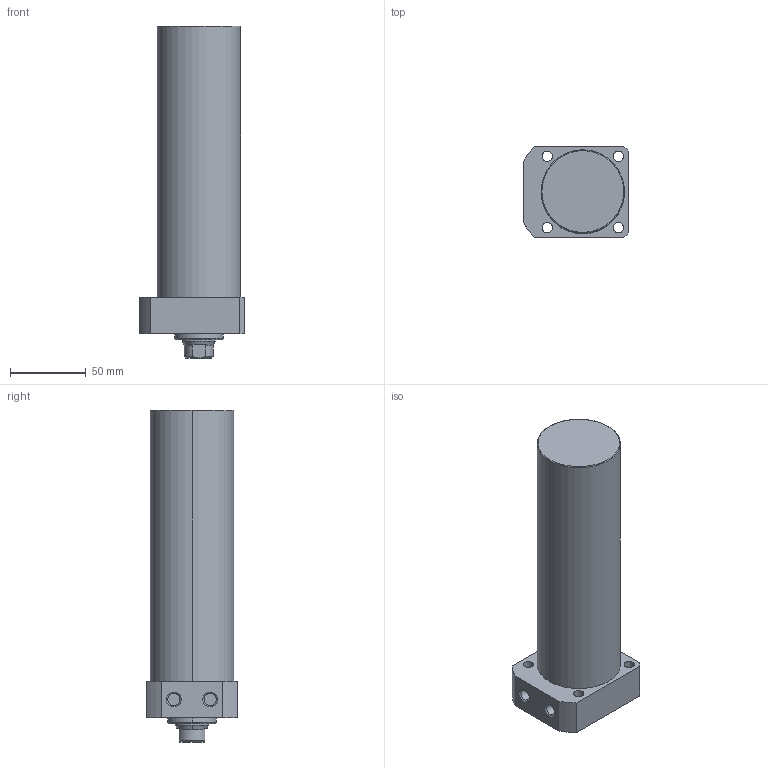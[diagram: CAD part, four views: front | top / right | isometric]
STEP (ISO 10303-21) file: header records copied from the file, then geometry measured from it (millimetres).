
FILE_DESCRIPTION (( 'STEP AP203' ), '1' );
FILE_NAME ('CLLR-055CA-150.STEP', '2019-12-17T11:46:12', ( '' ), ( '' ), 'SwSTEP 2.0', 'SolidWorks 2015', '' );
FILE_SCHEMA (( 'CONFIG_CONTROL_DESIGN' ));
Length unit declared in the file: millimetre
Products named in the file (1): CLLR-055CA-150
Bounding box: 69 x 60 x 219 mm (x, y, z)
Volume: 522901 mm3; surface area: 49216 mm2
Topology: 1 solids, 1 shells, 65 faces, 150 edges, 93 vertices
Faces by surface type: cylinder 29, plane 19, cone 15, torus 2
Entity records: 1959 total; most frequent: DIRECTION 348, CARTESIAN_POINT 347, ORIENTED_EDGE 296, EDGE_CURVE 148, AXIS2_PLACEMENT_3D 142, VERTEX_POINT 93, EDGE_LOOP 81, CIRCLE 76
